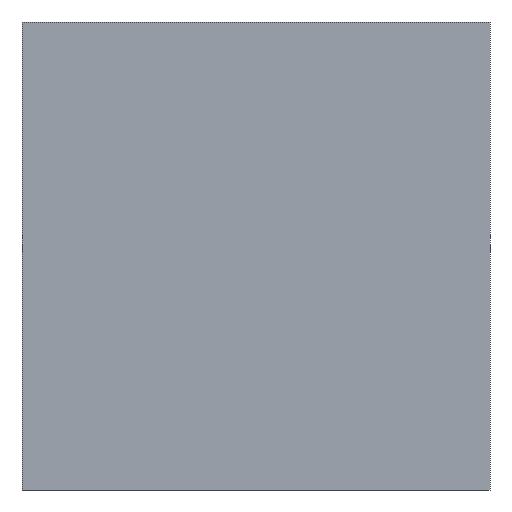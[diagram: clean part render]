
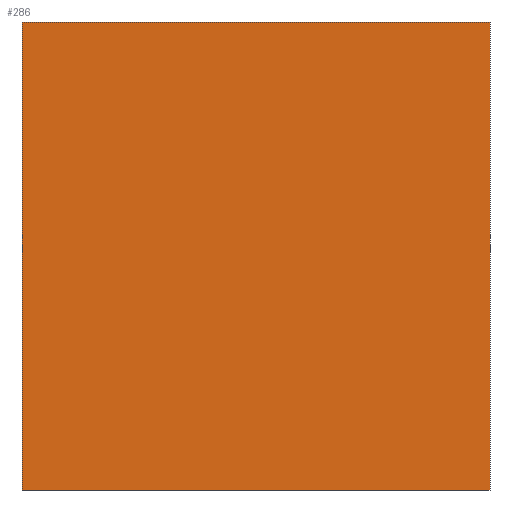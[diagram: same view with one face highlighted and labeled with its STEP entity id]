
A CAD part, left-side view. The second image highlights one B-rep face of the part: STEP entity #286.
In plain terms, the highlighted planar face has unit normal (-1, 0, 0).
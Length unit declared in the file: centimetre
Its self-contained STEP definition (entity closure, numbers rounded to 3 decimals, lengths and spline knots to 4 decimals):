
#10 = PLANE ( 'NONE',  #33 ) ;
#11 = CARTESIAN_POINT ( 'NONE',  ( 0., 0., 1000. ) ) ;
#28 = VECTOR ( 'NONE', #399, 100. ) ;
#33 = AXIS2_PLACEMENT_3D ( 'NONE', #194, #533, #355 ) ;
#46 = DIRECTION ( 'NONE',  ( 0., -1., 0. ) ) ;
#52 = DIRECTION ( 'NONE',  ( 0., 0., -1. ) ) ;
#61 = EDGE_CURVE ( 'NONE', #63, #187, #134, .T. ) ;
#63 = VERTEX_POINT ( 'NONE', #178 ) ;
#81 = EDGE_CURVE ( 'NONE', #408, #113, #83, .T. ) ;
#83 = LINE ( 'NONE', #221, #28 ) ;
#84 = VECTOR ( 'NONE', #501, 100. ) ;
#103 = ORIENTED_EDGE ( 'NONE', *, *, #81, .T. ) ;
#113 = VERTEX_POINT ( 'NONE', #543 ) ;
#134 = LINE ( 'NONE', #299, #400 ) ;
#178 = CARTESIAN_POINT ( 'NONE',  ( 0., 1000., 1000. ) ) ;
#187 = VERTEX_POINT ( 'NONE', #376 ) ;
#194 = CARTESIAN_POINT ( 'NONE',  ( 0., 1000., 1000. ) ) ;
#200 = EDGE_LOOP ( 'NONE', ( #103, #229, #323, #320 ) ) ;
#208 = CARTESIAN_POINT ( 'NONE',  ( 0., 1000., 1000. ) ) ;
#221 = CARTESIAN_POINT ( 'NONE',  ( 0., 1000., 0. ) ) ;
#229 = ORIENTED_EDGE ( 'NONE', *, *, #247, .F. ) ;
#247 = EDGE_CURVE ( 'NONE', #187, #113, #276, .T. ) ;
#276 = LINE ( 'NONE', #11, #558 ) ;
#286 = ADVANCED_FACE ( 'NONE', ( #407 ), #10, .F. ) ;
#299 = CARTESIAN_POINT ( 'NONE',  ( 0., 1000., 1000. ) ) ;
#320 = ORIENTED_EDGE ( 'NONE', *, *, #456, .T. ) ;
#323 = ORIENTED_EDGE ( 'NONE', *, *, #61, .F. ) ;
#328 = LINE ( 'NONE', #208, #84 ) ;
#333 = CARTESIAN_POINT ( 'NONE',  ( 0., 1000., 0. ) ) ;
#355 = DIRECTION ( 'NONE',  ( 0., 0., -1. ) ) ;
#376 = CARTESIAN_POINT ( 'NONE',  ( 0., 0., 1000. ) ) ;
#399 = DIRECTION ( 'NONE',  ( 0., -1., 0. ) ) ;
#400 = VECTOR ( 'NONE', #46, 100. ) ;
#407 = FACE_OUTER_BOUND ( 'NONE', #200, .T. ) ;
#408 = VERTEX_POINT ( 'NONE', #333 ) ;
#456 = EDGE_CURVE ( 'NONE', #63, #408, #328, .T. ) ;
#501 = DIRECTION ( 'NONE',  ( 0., 0., -1. ) ) ;
#533 = DIRECTION ( 'NONE',  ( 1., 0., 0. ) ) ;
#543 = CARTESIAN_POINT ( 'NONE',  ( 0., 0., 0. ) ) ;
#558 = VECTOR ( 'NONE', #52, 100. ) ;
